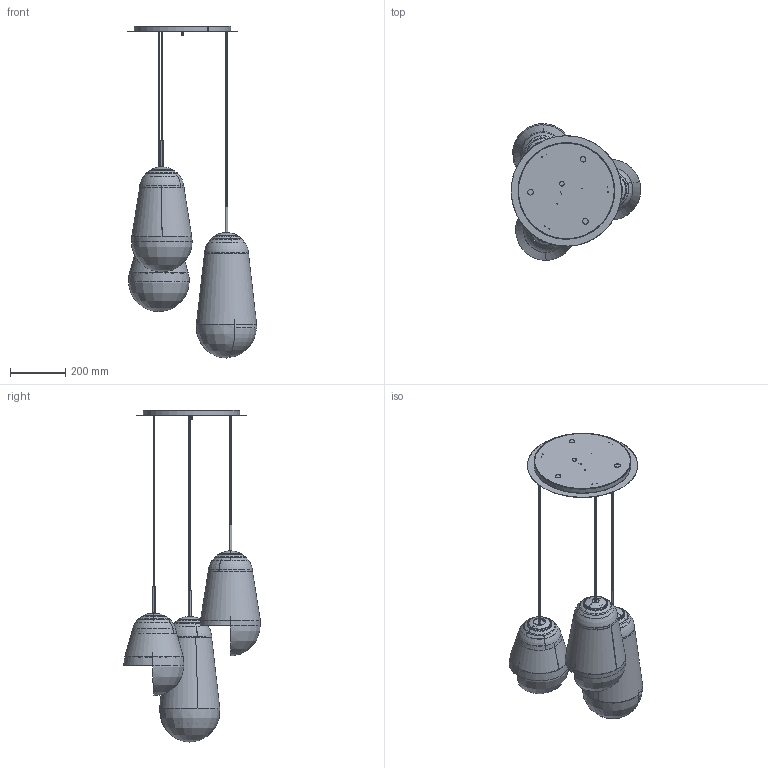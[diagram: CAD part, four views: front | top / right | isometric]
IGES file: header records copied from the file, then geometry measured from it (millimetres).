
Start section: SolidWorks IGES file using analytic representation for surfaces
Global section: file name: Z:\Modele 3D_WWW\_KOLEKCJE_WWW\PEAR\PEAR-III-7794\PEAR-III-7794.IGS; native system: SolidWorks 2021; preprocessor: SolidWorks 2021; author: gabriela.tworek; date: 210720.111227; units: millimetre
Bounding box: 469.55 x 495.47 x 1203.32 mm (x, y, z)
Surface area: 2164284.1 mm2 (no closed solid volume)
Topology: 0 solids, 0 shells, 813 faces, 14787 edges, 14775 vertices
Faces by surface type: revolution 531, bspline 282
